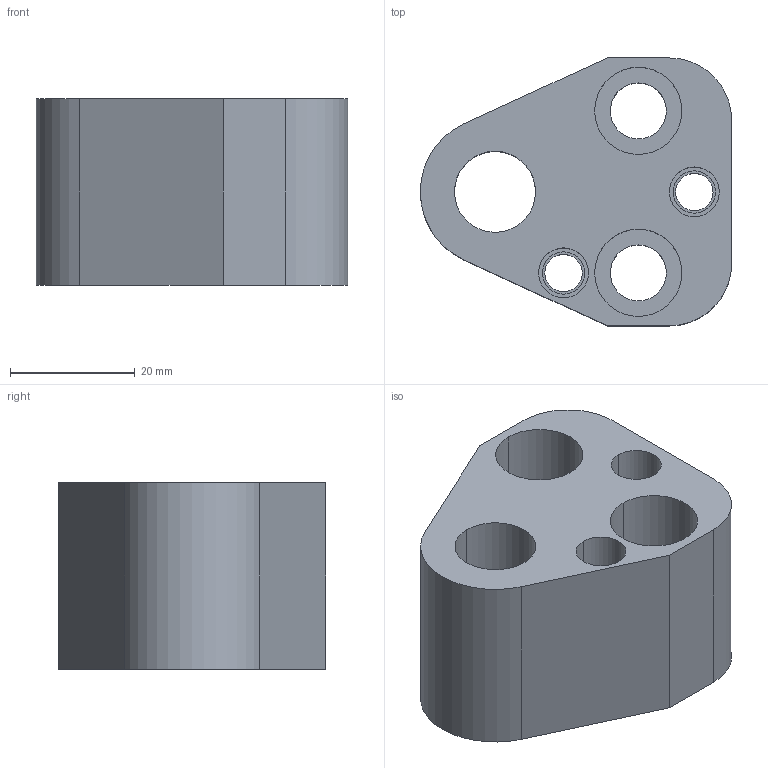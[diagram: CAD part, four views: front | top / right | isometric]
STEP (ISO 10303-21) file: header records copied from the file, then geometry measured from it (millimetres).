
FILE_DESCRIPTION(/* description */ (''),/* implementation_level */ '2;1');
FILE_NAME(/* name */ '3d_hdp-an13_04029_r00.stp',/* time_stamp */ '2011-01-10T14:14:54+09:00',/* author */ ('MISUMI'),/* organization */ (''),/* preprocessor_version */ 'ST-DEVELOPER v11',/* originating_system */ 'UGS - NX 5.0',/* authorisation */ '');
FILE_SCHEMA (('CONFIG_CONTROL_DESIGN'));
Length unit declared in the file: millimetre
Products named in the file (1): 3d_hdp-an13_04029_r00
Bounding box: 50 x 43 x 30 mm (x, y, z)
Volume: 37714.6 mm3; surface area: 11908.5 mm2
Topology: 1 solids, 1 shells, 43 faces, 100 edges, 66 vertices
Faces by surface type: cylinder 27, plane 14, cone 2
Entity records: 1360 total; most frequent: DIRECTION 244, CARTESIAN_POINT 210, ORIENTED_EDGE 200, EDGE_CURVE 100, AXIS2_PLACEMENT_3D 100, VERTEX_POINT 66, EDGE_LOOP 60, CIRCLE 56
